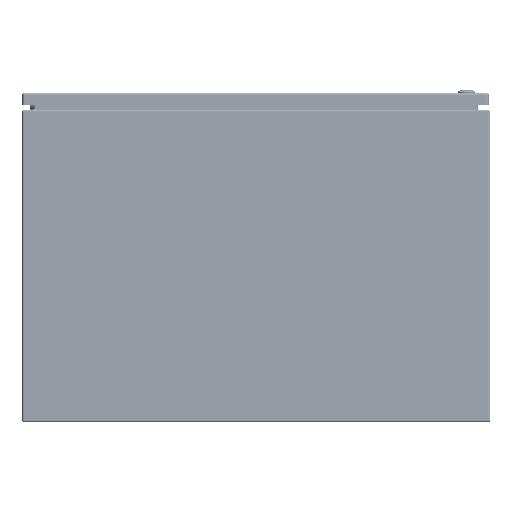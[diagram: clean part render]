
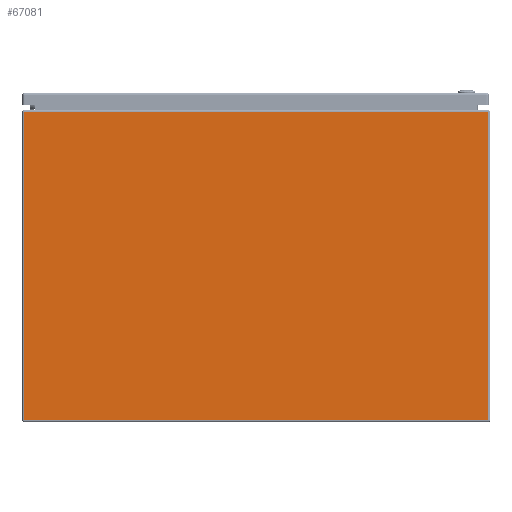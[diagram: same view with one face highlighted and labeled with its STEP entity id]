
A CAD part, front view. The second image highlights one B-rep face of the part: STEP entity #67081.
In plain terms, the highlighted planar face has unit normal (0, -1, 0).
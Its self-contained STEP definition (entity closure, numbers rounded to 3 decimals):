
#6496=LINE('',#94414,#10637);
#6499=LINE('',#94436,#10640);
#6500=LINE('',#94438,#10641);
#6501=LINE('',#94439,#10642);
#10637=VECTOR('',#78199,0.394);
#10640=VECTOR('',#78230,0.394);
#10641=VECTOR('',#78231,0.394);
#10642=VECTOR('',#78232,0.394);
#15839=FACE_OUTER_BOUND('',#19952,.T.);
#19952=EDGE_LOOP('',(#44687,#44688,#44689,#44690));
#26986=VERTEX_POINT('',#94403);
#26989=VERTEX_POINT('',#94413);
#26994=VERTEX_POINT('',#94435);
#26995=VERTEX_POINT('',#94437);
#33841=EDGE_CURVE('',#26986,#26989,#6496,.T.);
#33852=EDGE_CURVE('',#26994,#26986,#6499,.T.);
#33853=EDGE_CURVE('',#26994,#26995,#6500,.T.);
#33854=EDGE_CURVE('',#26989,#26995,#6501,.T.);
#44687=ORIENTED_EDGE('',*,*,#33841,.F.);
#44688=ORIENTED_EDGE('',*,*,#33852,.F.);
#44689=ORIENTED_EDGE('',*,*,#33853,.T.);
#44690=ORIENTED_EDGE('',*,*,#33854,.F.);
#65659=PLANE('',#72093);
#67081=ADVANCED_FACE('',(#15839),#65659,.T.);
#72093=AXIS2_PLACEMENT_3D('',#94434,#78228,#78229);
#78199=DIRECTION('',(1.,0.,0.));
#78228=DIRECTION('center_axis',(0.,-1.,0.));
#78229=DIRECTION('ref_axis',(-1.,0.,0.));
#78230=DIRECTION('',(0.,0.,1.));
#78231=DIRECTION('',(1.,0.,0.));
#78232=DIRECTION('',(0.,0.,-1.));
#94403=CARTESIAN_POINT('',(-14.901,-18.,19.901));
#94413=CARTESIAN_POINT('',(14.901,-18.,19.901));
#94414=CARTESIAN_POINT('',(0.025,-18.,19.901));
#94434=CARTESIAN_POINT('Origin',(15.,-18.,20.));
#94435=CARTESIAN_POINT('',(-14.901,-18.,0.099));
#94436=CARTESIAN_POINT('',(-14.901,-18.,10.));
#94437=CARTESIAN_POINT('',(14.901,-18.,0.099));
#94438=CARTESIAN_POINT('',(-7.451,-18.,0.099));
#94439=CARTESIAN_POINT('',(14.901,-18.,10.));
